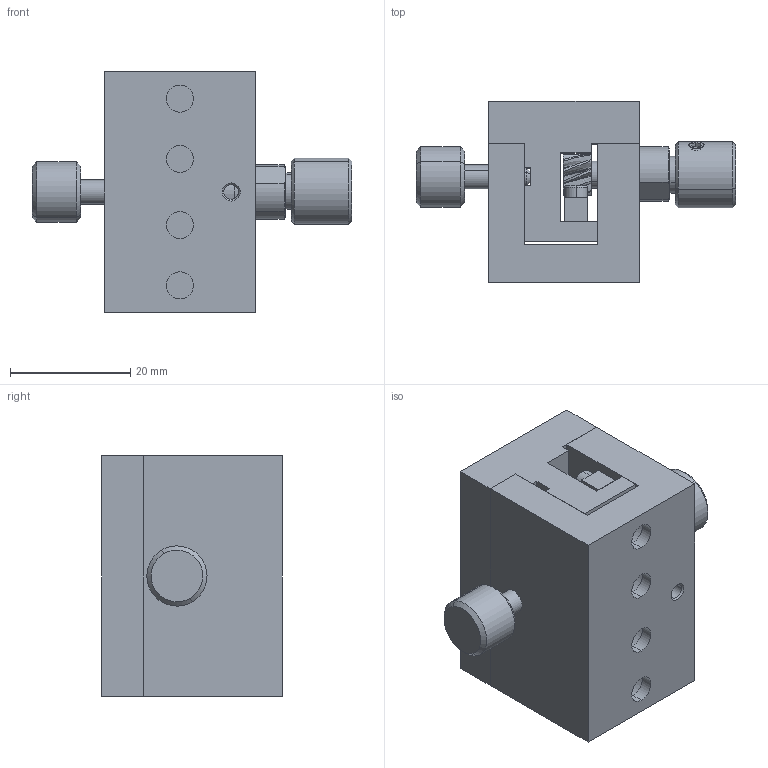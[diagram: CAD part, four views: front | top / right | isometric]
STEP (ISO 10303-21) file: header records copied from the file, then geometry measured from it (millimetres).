
FILE_DESCRIPTION (( 'STEP AP203' ), '1' );
FILE_NAME ('BKRG40.STEP', '2024-03-04T02:07:32', ( 'China' ), ( 'Microsoft' ), 'SwSTEP 2.0', 'SolidWorks 2024', '' );
FILE_SCHEMA (( 'CONFIG_CONTROL_DESIGN' ));
Products named in the file (1): BKRG40
Bounding box: 53 x 30 x 40 mm (x, y, z)
Volume: 28373.3 mm3; surface area: 15222.2 mm2
Topology: 10 solids, 10 shells, 381 faces, 966 edges, 607 vertices
Faces by surface type: plane 188, cylinder 91, cone 65, bspline 33, torus 4
Entity records: 95473 total; most frequent: CARTESIAN_POINT 86534, ORIENTED_EDGE 1892, DIRECTION 1779, EDGE_CURVE 946, VERTEX_POINT 607, AXIS2_PLACEMENT_3D 606, LINE 567, VECTOR 567
